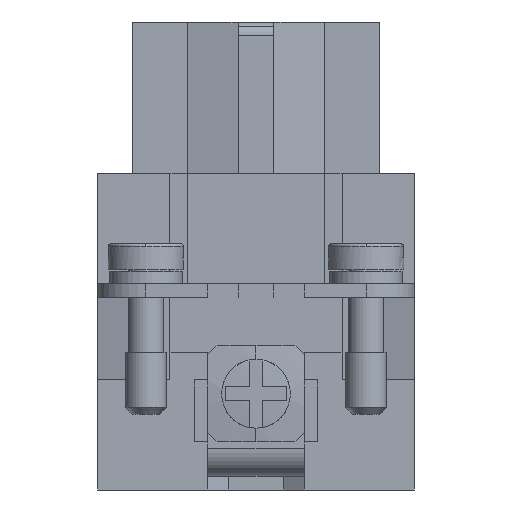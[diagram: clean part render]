
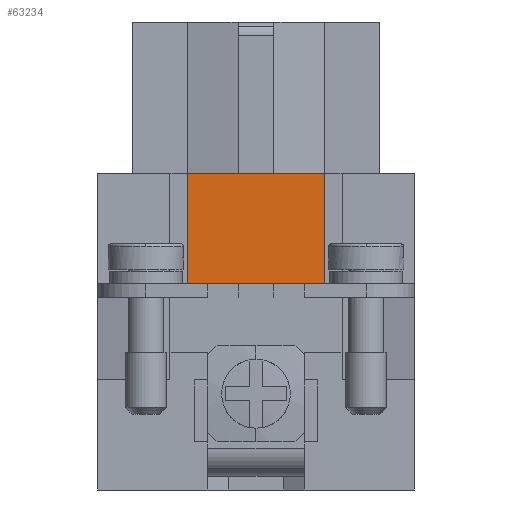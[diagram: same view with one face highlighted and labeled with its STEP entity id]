
A CAD part, left-side view. The second image highlights one B-rep face of the part: STEP entity #63234.
In plain terms, the highlighted planar face has unit normal (-1, 0, 0).
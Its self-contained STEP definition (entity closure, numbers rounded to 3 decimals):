
#20428=CARTESIAN_POINT('',(-36.0,5.0,0.0));
#20429=VERTEX_POINT('',#20428);
#20436=CARTESIAN_POINT('',(-36.0,-5.0,0.0));
#20437=VERTEX_POINT('',#20436);
#20438=CARTESIAN_POINT('',(-36.0,-5.0,0.0));
#20439=DIRECTION('',(0.0,1.0,0.0));
#20440=VECTOR('',#20439,10.0);
#20441=LINE('',#20438,#20440);
#20442=EDGE_CURVE('',#20437,#20429,#20441,.T.);
#46142=CARTESIAN_POINT('',(-36.0,-5.0,-8.0));
#46143=VERTEX_POINT('',#46142);
#46150=CARTESIAN_POINT('',(-36.0,5.0,-8.0));
#46151=VERTEX_POINT('',#46150);
#46152=CARTESIAN_POINT('',(-36.0,5.0,-8.0));
#46153=DIRECTION('',(0.0,-1.0,0.0));
#46154=VECTOR('',#46153,10.0);
#46155=LINE('',#46152,#46154);
#46156=EDGE_CURVE('',#46151,#46143,#46155,.T.);
#63207=CARTESIAN_POINT('',(-36.0,5.0,0.0));
#63208=DIRECTION('',(0.0,0.0,-1.0));
#63209=VECTOR('',#63208,8.0);
#63210=LINE('',#63207,#63209);
#63211=EDGE_CURVE('',#20429,#46151,#63210,.T.);
#63218=CARTESIAN_POINT('',(-36.0,5.0,0.0));
#63219=DIRECTION('',(-1.0,0.0,0.0));
#63220=DIRECTION('',(0.0,0.0,1.0));
#63221=AXIS2_PLACEMENT_3D('',#63218,#63219,#63220);
#63222=PLANE('',#63221);
#63223=ORIENTED_EDGE('',*,*,#46156,.T.);
#63224=CARTESIAN_POINT('',(-36.0,-5.0,0.0));
#63225=DIRECTION('',(0.0,0.0,-1.0));
#63226=VECTOR('',#63225,8.0);
#63227=LINE('',#63224,#63226);
#63228=EDGE_CURVE('',#20437,#46143,#63227,.T.);
#63229=ORIENTED_EDGE('',*,*,#63228,.F.);
#63230=ORIENTED_EDGE('',*,*,#20442,.T.);
#63231=ORIENTED_EDGE('',*,*,#63211,.T.);
#63232=EDGE_LOOP('',(#63223,#63229,#63230,#63231));
#63233=FACE_OUTER_BOUND('',#63232,.T.);
#63234=ADVANCED_FACE('',(#63233),#63222,.T.);
